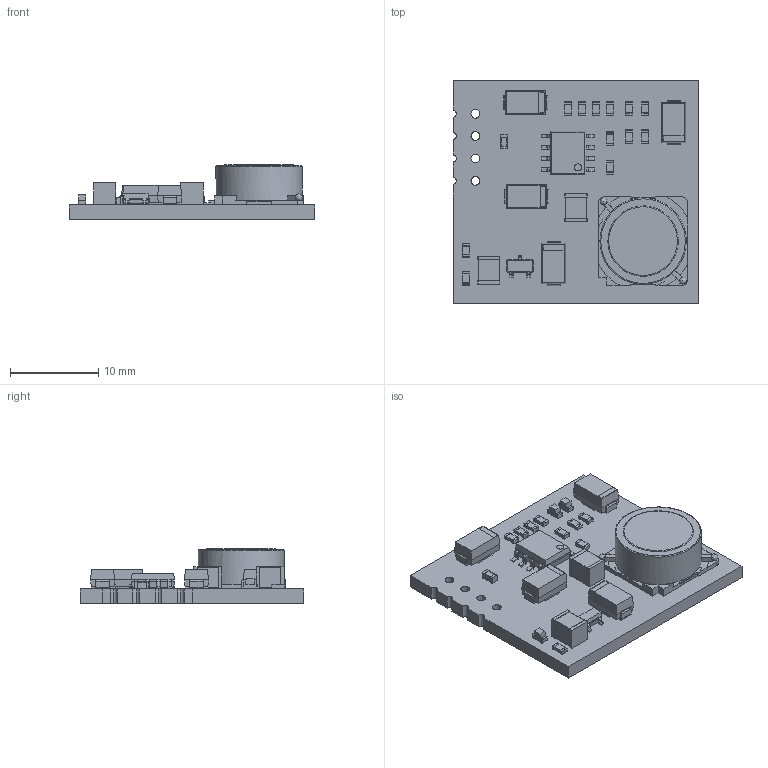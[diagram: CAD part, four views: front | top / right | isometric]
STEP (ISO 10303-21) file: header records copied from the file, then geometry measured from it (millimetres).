
FILE_DESCRIPTION(('KiCad electronic assembly'),'2;1');
FILE_NAME('02_Batt_Alim.step','2023-05-10T14:00:25',('Pcbnew'),('Kicad') ,'Open CASCADE STEP processor 7.6','KiCad to STEP converter','Unknown' );
FILE_SCHEMA(('AUTOMOTIVE_DESIGN { 1 0 10303 214 1 1 1 1 }'));
Length unit declared in the file: millimetre
Products named in the file (18): 02_Batt_Alim 1; R_0603_1608Metric; SOLID; C_0603_1608Metric; C_1210_3225Metric; LED_0603_1608Metric; L_TDK_SLF10165; SOT-23; TP4056; COMPOUND; D_SMA; 02_Batt_Alim PCB
Assembly tree (31 placements, depth 3):
  02_Batt_Alim 1
    R_0603_1608Metric  x9
      SOLID
    C_0603_1608Metric
      SOLID
    C_1210_3225Metric  x2
      SOLID
    LED_0603_1608Metric  x3
      SOLID
    L_TDK_SLF10165
      SOLID
    SOT-23
      SOLID
    TP4056
      COMPOUND
    D_SMA  x4
      SOLID
    02_Batt_Alim PCB
Bounding box: 27.94 x 25.4 x 6.15 mm (x, y, z)
Volume: 1668 mm3; surface area: 2501.3 mm2
Topology: 33 solids, 33 shells, 954 faces, 2465 edges, 1592 vertices
Faces by surface type: bspline 924, cylinder 18, plane 12
Full cylindrical faces by diameter (mm): 0.6 x6, 1 x4
Entity records: 31343 total; most frequent: CARTESIAN_POINT 11897, B_SPLINE_CURVE_WITH_KNOTS 3057, ORIENTED_EDGE 2526, PCURVE 2526, DEFINITIONAL_REPRESENTATION 2526, EDGE_CURVE 1263, SURFACE_CURVE 1247, VERTEX_POINT 816
